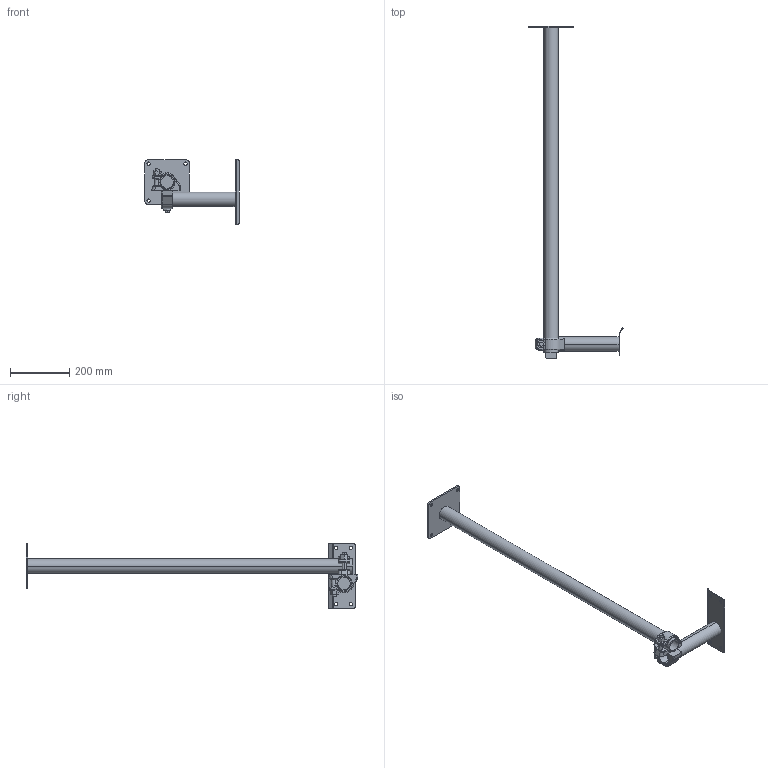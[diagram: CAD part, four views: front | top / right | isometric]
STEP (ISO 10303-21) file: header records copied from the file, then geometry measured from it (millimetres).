
FILE_DESCRIPTION((''),'2;1');
FILE_NAME('130-260','2022-05-20T11:30:23',('Tomas Bellgran'),(''),'CREO PARAMETRIC BY PTC INC, 2018260','CREO PARAMETRIC BY PTC INC, 2018260','');
FILE_SCHEMA(('AUTOMOTIVE_DESIGN { 1 0 10303 214 1 1 1 1 }'));
Length unit declared in the file: millimetre
Products named in the file (9): 130-201; 130-204; 130-200; APS_LAYHERKOPPLING-546; 136900; 130-252; 130-254; 130-250; 130-260
Assembly tree (9 placements, depth 3):
  130-260
    130-200
      130-201
      130-204
    136900
      APS_LAYHERKOPPLING-546  x2
    130-250
      130-252
      130-254
Bounding box: 318.93 x 1123 x 220 mm (x, y, z)
Volume: 1010357.5 mm3; surface area: 523617.8 mm2
Topology: 6 solids, 6 shells, 186 faces, 478 edges, 296 vertices
Faces by surface type: cylinder 90, plane 60, torus 20, bspline 8, sphere 8
Entity records: 7016 total; most frequent: CARTESIAN_POINT 1130, DIRECTION 814, ORIENTED_EDGE 606, PROPERTY_DEFINITION 413, REPRESENTATION 408, PROPERTY_DEFINITION_REPRESENTATION 408, DESCRIPTIVE_REPRESENTATION_ITEM 334, GENERAL_PROPERTY 324
